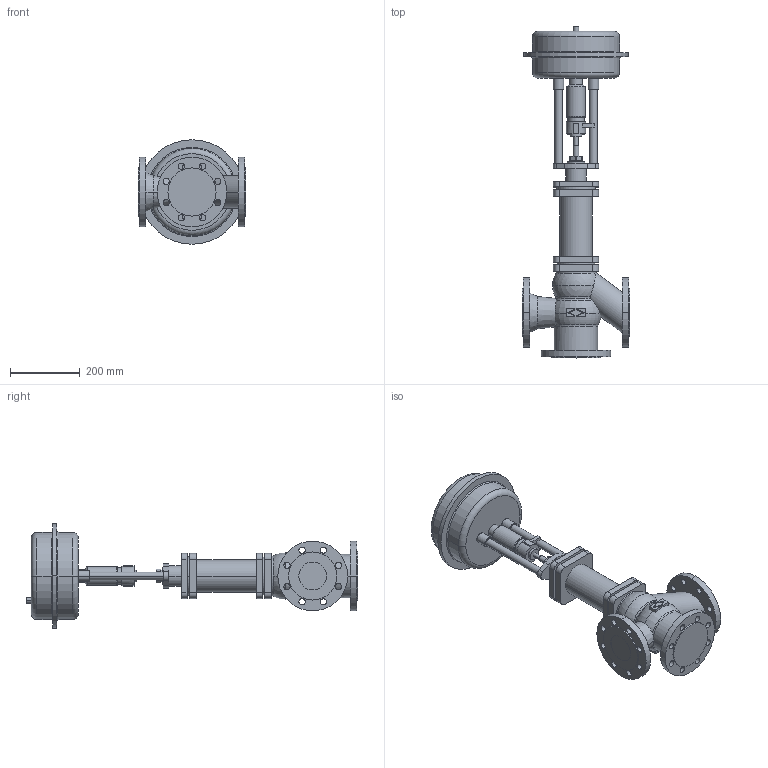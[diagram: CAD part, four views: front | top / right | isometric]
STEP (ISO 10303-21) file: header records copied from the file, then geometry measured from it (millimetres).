
FILE_DESCRIPTION(('OneSpaceDesigner STEP Export'),'2;1');
FILE_NAME('c000000711.stp','2006-09-21T 8:32:59',(''),(''),'OneSpace Designer STEP processor for AP214 (Solid Model)','OneSpace Designer 13.20A 18-Aug-2005 (C) CoCreate Software GmbH','');
FILE_SCHEMA(('AUTOMOTIVE_DESIGN { 1 0 10303 214 1 1 1 1 }'));
Length unit declared in the file: millimetre
Products named in the file (2): 1; 2
Bounding box: 310 x 953.3 x 300 mm (x, y, z)
Volume: 15994590.8 mm3; surface area: 835347.8 mm2
Topology: 2 solids, 2 shells, 277 faces, 699 edges, 456 vertices
Faces by surface type: cylinder 138, plane 101, torus 26, cone 8, sphere 4
Entity records: 7642 total; most frequent: CARTESIAN_POINT 1468, ORIENTED_EDGE 1390, DIRECTION 1132, EDGE_CURVE 695, VERTEX_POINT 456, AXIS2_PLACEMENT_3D 413, EDGE_LOOP 359, VECTOR 306
